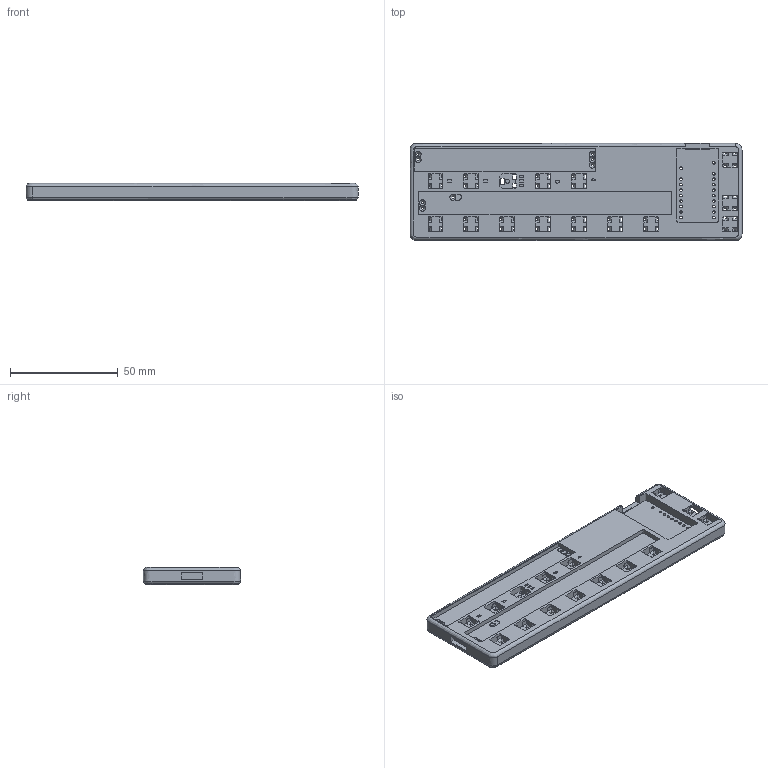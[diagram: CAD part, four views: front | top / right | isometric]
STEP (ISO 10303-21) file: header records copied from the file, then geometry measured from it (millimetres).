
FILE_DESCRIPTION(/* description */ (''),/* implementation_level */ '2;1');
FILE_NAME(/* name */ 'leet_chord_stp',/* time_stamp */ '2020-11-06T18:06:47+01:00',/* author */ (''),/* organization */ (''),/* preprocessor_version */ 'ST-DEVELOPER v10',/* originating_system */ '',/* authorisation */ '');
FILE_SCHEMA (('CONFIG_CONTROL_DESIGN'));
Length unit declared in the file: millimetre
Products named in the file (1): 1
Bounding box: 154 x 45 x 8 mm (x, y, z)
Volume: 36287.9 mm3; surface area: 25954.2 mm2
Topology: 1 solids, 1 shells, 1576 faces, 4359 edges, 2723 vertices
Faces by surface type: plane 1169, bspline 407
Entity records: 73799 total; most frequent: CARTESIAN_POINT 45367, ORIENTED_EDGE 8718, EDGE_CURVE 4359, B_SPLINE_CURVE_WITH_KNOTS 3841, VERTEX_POINT 2723, EDGE_LOOP 1702, ADVANCED_FACE 1576, FACE_OUTER_BOUND 1576
